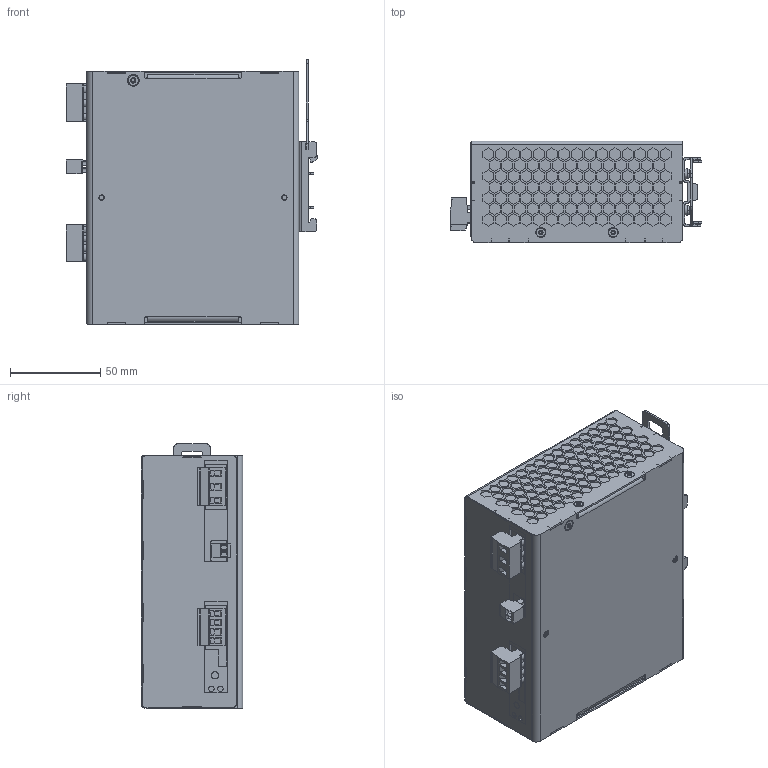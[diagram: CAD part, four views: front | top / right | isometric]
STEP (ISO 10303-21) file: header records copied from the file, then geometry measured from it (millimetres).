
FILE_DESCRIPTION (( 'STEP AP214' ), '1' );
FILE_NAME ('NPSM481_3D_light.STEP', '2016-04-27T10:57:56', ( 'miky' ), ( 'Microsoft' ), 'SwSTEP 2.0', 'SolidWorks 2014', '' );
FILE_SCHEMA (( 'AUTOMOTIVE_DESIGN' ));
Length unit declared in the file: millimetre
Products named in the file (1): NPSM481_3D_light
Bounding box: 139.1 x 56 x 146.2 mm (x, y, z)
Volume: 920940.5 mm3; surface area: 79822.8 mm2
Topology: 1 solids, 8 shells, 2817 faces, 7471 edges, 4928 vertices
Faces by surface type: plane 2262, cylinder 454, cone 93, torus 4, bspline 4
Entity records: 117151 total; most frequent: CARTESIAN_POINT 16397, ORIENTED_EDGE 14942, DIRECTION 14172, EDGE_CURVE 7471, VECTOR 6100, LINE 6100, VERTEX_POINT 4928, AXIS2_PLACEMENT_3D 4036
